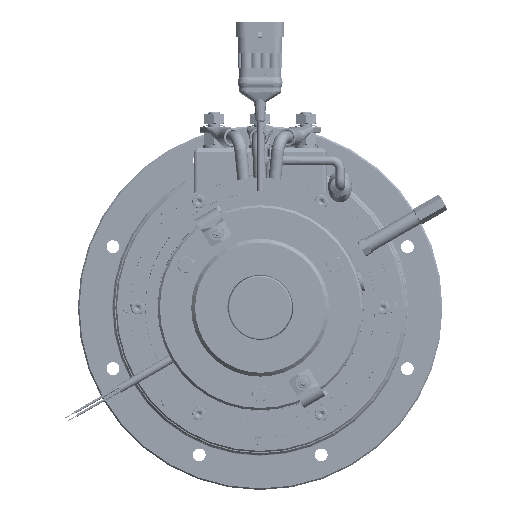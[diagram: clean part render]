
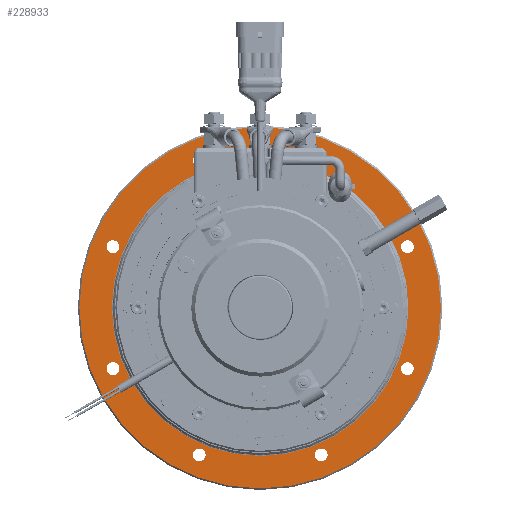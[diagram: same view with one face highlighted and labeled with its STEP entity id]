
A CAD part, left-side view. The second image highlights one B-rep face of the part: STEP entity #228933.
In plain terms, the highlighted planar face has unit normal (-1, 0, 0).
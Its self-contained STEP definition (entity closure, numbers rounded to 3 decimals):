
#3779=FACE_BOUND('',#32407,.T.);
#3780=FACE_BOUND('',#32408,.T.);
#3781=FACE_BOUND('',#32409,.T.);
#3782=FACE_BOUND('',#32410,.T.);
#3783=FACE_BOUND('',#32411,.T.);
#3784=FACE_BOUND('',#32412,.T.);
#3785=FACE_BOUND('',#32413,.T.);
#3786=FACE_BOUND('',#32414,.T.);
#3787=FACE_BOUND('',#32415,.T.);
#8351=PLANE('',#245809);
#19496=FACE_OUTER_BOUND('',#32406,.T.);
#32406=EDGE_LOOP('',(#171621));
#32407=EDGE_LOOP('',(#171622));
#32408=EDGE_LOOP('',(#171623));
#32409=EDGE_LOOP('',(#171624));
#32410=EDGE_LOOP('',(#171625));
#32411=EDGE_LOOP('',(#171626));
#32412=EDGE_LOOP('',(#171627));
#32413=EDGE_LOOP('',(#171628));
#32414=EDGE_LOOP('',(#171629));
#32415=EDGE_LOOP('',(#171630));
#87255=CIRCLE('',#245805,96.8);
#87258=CIRCLE('',#245810,118.);
#87259=CIRCLE('',#245811,4.188);
#87260=CIRCLE('',#245812,4.188);
#87261=CIRCLE('',#245813,4.188);
#87262=CIRCLE('',#245814,4.188);
#87263=CIRCLE('',#245815,4.188);
#87264=CIRCLE('',#245816,4.188);
#87265=CIRCLE('',#245817,4.188);
#87266=CIRCLE('',#245818,4.188);
#101629=VERTEX_POINT('',#382059);
#101632=VERTEX_POINT('',#382069);
#101633=VERTEX_POINT('',#382071);
#101634=VERTEX_POINT('',#382073);
#101635=VERTEX_POINT('',#382075);
#101636=VERTEX_POINT('',#382077);
#101637=VERTEX_POINT('',#382079);
#101638=VERTEX_POINT('',#382081);
#101639=VERTEX_POINT('',#382083);
#101640=VERTEX_POINT('',#382085);
#127347=EDGE_CURVE('',#101629,#101629,#87255,.T.);
#127351=EDGE_CURVE('',#101632,#101632,#87258,.T.);
#127352=EDGE_CURVE('',#101633,#101633,#87259,.T.);
#127353=EDGE_CURVE('',#101634,#101634,#87260,.T.);
#127354=EDGE_CURVE('',#101635,#101635,#87261,.T.);
#127355=EDGE_CURVE('',#101636,#101636,#87262,.T.);
#127356=EDGE_CURVE('',#101637,#101637,#87263,.T.);
#127357=EDGE_CURVE('',#101638,#101638,#87264,.T.);
#127358=EDGE_CURVE('',#101639,#101639,#87265,.T.);
#127359=EDGE_CURVE('',#101640,#101640,#87266,.T.);
#171621=ORIENTED_EDGE('',*,*,#127351,.F.);
#171622=ORIENTED_EDGE('',*,*,#127352,.T.);
#171623=ORIENTED_EDGE('',*,*,#127353,.T.);
#171624=ORIENTED_EDGE('',*,*,#127354,.T.);
#171625=ORIENTED_EDGE('',*,*,#127355,.T.);
#171626=ORIENTED_EDGE('',*,*,#127356,.T.);
#171627=ORIENTED_EDGE('',*,*,#127357,.T.);
#171628=ORIENTED_EDGE('',*,*,#127358,.T.);
#171629=ORIENTED_EDGE('',*,*,#127359,.T.);
#171630=ORIENTED_EDGE('',*,*,#127347,.F.);
#228933=ADVANCED_FACE('',(#19496,#3779,#3780,#3781,#3782,#3783,#3784,#3785,
#3786,#3787),#8351,.T.);
#245805=AXIS2_PLACEMENT_3D('',#382061,#285650,#285651);
#245809=AXIS2_PLACEMENT_3D('',#382068,#285659,#285660);
#245810=AXIS2_PLACEMENT_3D('',#382070,#285661,#285662);
#245811=AXIS2_PLACEMENT_3D('',#382072,#285663,#285664);
#245812=AXIS2_PLACEMENT_3D('',#382074,#285665,#285666);
#245813=AXIS2_PLACEMENT_3D('',#382076,#285667,#285668);
#245814=AXIS2_PLACEMENT_3D('',#382078,#285669,#285670);
#245815=AXIS2_PLACEMENT_3D('',#382080,#285671,#285672);
#245816=AXIS2_PLACEMENT_3D('',#382082,#285673,#285674);
#245817=AXIS2_PLACEMENT_3D('',#382084,#285675,#285676);
#245818=AXIS2_PLACEMENT_3D('',#382086,#285677,#285678);
#285650=DIRECTION('center_axis',(-1.,0.,0.));
#285651=DIRECTION('ref_axis',(0.,0.,
-1.));
#285659=DIRECTION('center_axis',(-1.,0.,0.));
#285660=DIRECTION('ref_axis',(0.,0.,
-1.));
#285661=DIRECTION('center_axis',(1.,0.,0.));
#285662=DIRECTION('ref_axis',(0.,0.,
-1.));
#285663=DIRECTION('center_axis',(1.,0.,0.));
#285664=DIRECTION('ref_axis',(0.,-1.,0.));
#285665=DIRECTION('center_axis',(1.,0.,0.));
#285666=DIRECTION('ref_axis',(0.,-0.707,
-0.707));
#285667=DIRECTION('center_axis',(1.,0.,0.));
#285668=DIRECTION('ref_axis',(0.,0.,
-1.));
#285669=DIRECTION('center_axis',(1.,0.,0.));
#285670=DIRECTION('ref_axis',(0.,0.707,-0.707));
#285671=DIRECTION('center_axis',(1.,0.,0.));
#285672=DIRECTION('ref_axis',(0.,1.,0.));
#285673=DIRECTION('center_axis',(1.,0.,0.));
#285674=DIRECTION('ref_axis',(0.,0.707,0.707));
#285675=DIRECTION('center_axis',(1.,0.,0.));
#285676=DIRECTION('ref_axis',(0.,0.,
1.));
#285677=DIRECTION('center_axis',(1.,0.,0.));
#285678=DIRECTION('ref_axis',(0.,-0.707,0.707));
#382059=CARTESIAN_POINT('',(69.1,0.,-96.8));
#382061=CARTESIAN_POINT('Origin',(69.1,0.,0.));
#382068=CARTESIAN_POINT('Origin',(69.1,0.,
107.5));
#382069=CARTESIAN_POINT('',(69.1,0.,118.));
#382070=CARTESIAN_POINT('Origin',(69.1,0.,0.));
#382071=CARTESIAN_POINT('',(69.1,43.987,96.083));
#382072=CARTESIAN_POINT('Origin',(69.1,39.799,96.083));
#382073=CARTESIAN_POINT('',(69.1,-36.838,99.045));
#382074=CARTESIAN_POINT('Origin',(69.1,-39.799,96.083));
#382075=CARTESIAN_POINT('',(69.1,-96.083,43.987));
#382076=CARTESIAN_POINT('Origin',(69.1,-96.083,39.799));
#382077=CARTESIAN_POINT('',(69.1,-99.045,-36.838));
#382078=CARTESIAN_POINT('Origin',(69.1,-96.083,-39.799));
#382079=CARTESIAN_POINT('',(69.1,-43.987,-96.083));
#382080=CARTESIAN_POINT('Origin',(69.1,-39.799,-96.083));
#382081=CARTESIAN_POINT('',(69.1,36.838,-99.045));
#382082=CARTESIAN_POINT('Origin',(69.1,39.799,-96.083));
#382083=CARTESIAN_POINT('',(69.1,96.083,-43.987));
#382084=CARTESIAN_POINT('Origin',(69.1,96.083,-39.799));
#382085=CARTESIAN_POINT('',(69.1,99.045,36.838));
#382086=CARTESIAN_POINT('Origin',(69.1,96.083,39.799));
